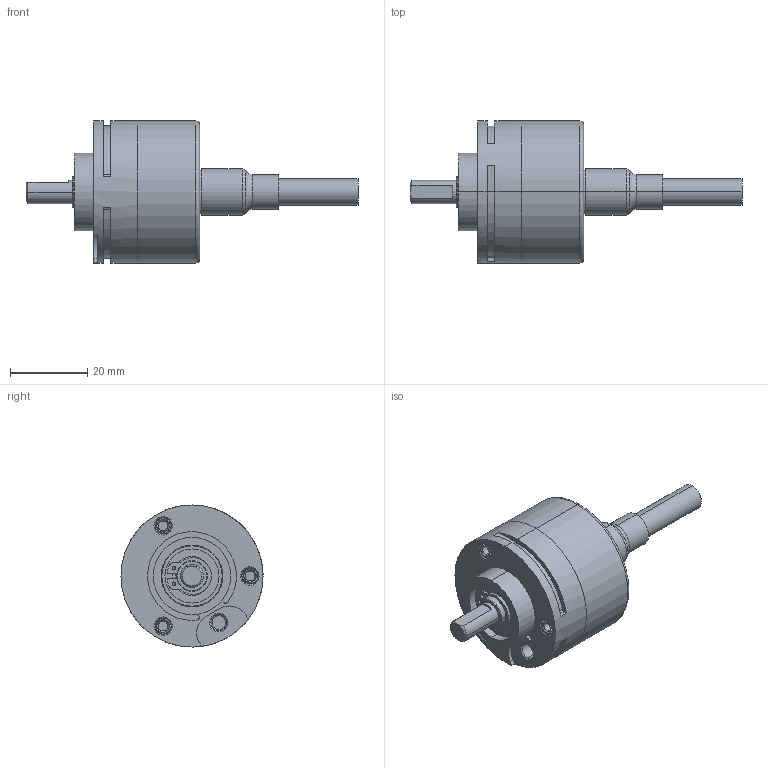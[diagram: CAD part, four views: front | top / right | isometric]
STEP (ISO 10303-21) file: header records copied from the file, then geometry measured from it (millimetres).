
FILE_DESCRIPTION (( 'STEP AP214' ), '1' );
FILE_NAME ('3700.13X1.XXXX.STEP', '2008-11-21T13:36:13', ( 'admin' ), ( 'Fritz Kübler GmbH' ), 'SwSTEP 2.0', 'SolidWorks 2008', '' );
FILE_SCHEMA (( 'AUTOMOTIVE_DESIGN' ));
Length unit declared in the file: millimetre
Products named in the file (1): 3700.13X1.XXXX
Bounding box: 86 x 36.8 x 36.8 mm (x, y, z)
Volume: 15646.6 mm3; surface area: 17880.1 mm2
Topology: 10 solids, 11 shells, 1110 faces, 2965 edges, 1862 vertices
Faces by surface type: plane 351, cylinder 348, bspline 171, torus 120, cone 79, sphere 41
Entity records: 51773 total; most frequent: CARTESIAN_POINT 14600, ORIENTED_EDGE 5804, DIRECTION 4860, EDGE_CURVE 2902, AXIS2_PLACEMENT_3D 2155, VERTEX_POINT 1828, CIRCLE 1215, EDGE_LOOP 1160
